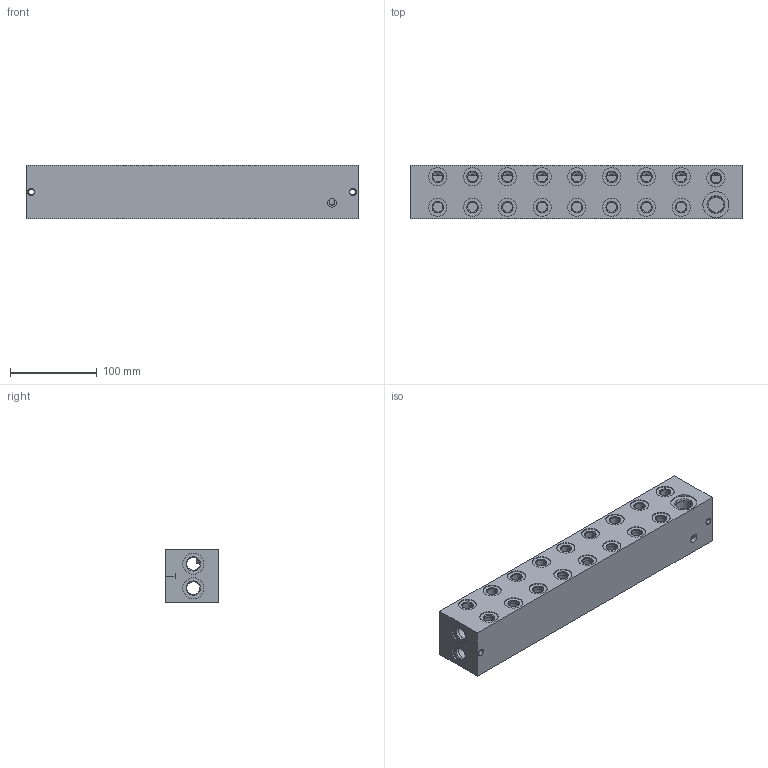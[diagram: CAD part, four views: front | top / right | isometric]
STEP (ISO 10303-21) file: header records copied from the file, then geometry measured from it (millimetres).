
FILE_DESCRIPTION((''),'2;1');
FILE_NAME('760_6980','2015-11-27T',('Ahcz.brigadnik05'),(''),'PRO/ENGINEER BY PARAMETRIC TECHNOLOGY CORPORATION, 2015110','PRO/ENGINEER BY PARAMETRIC TECHNOLOGY CORPORATION, 2015110','');
FILE_SCHEMA(('AUTOMOTIVE_DESIGN { 1 0 10303 214 1 1 1 1 }'));
Length unit declared in the file: millimetre
Products named in the file (1): 760_6980
Bounding box: 382 x 61 x 61 mm (x, y, z)
Volume: 526199.7 mm3; surface area: 207471.4 mm2
Topology: 1 solids, 61 shells, 534 faces, 2620 edges, 2497 vertices
Faces by surface type: cylinder 367, plane 100, cone 67
Entity records: 28964 total; most frequent: CARTESIAN_POINT 6107, DIRECTION 4396, ORIENTED_EDGE 2746, VECTOR 1634, LINE 1634, EDGE_CURVE 1493, AXIS2_PLACEMENT_3D 1381, TRIMMED_CURVE 1122
